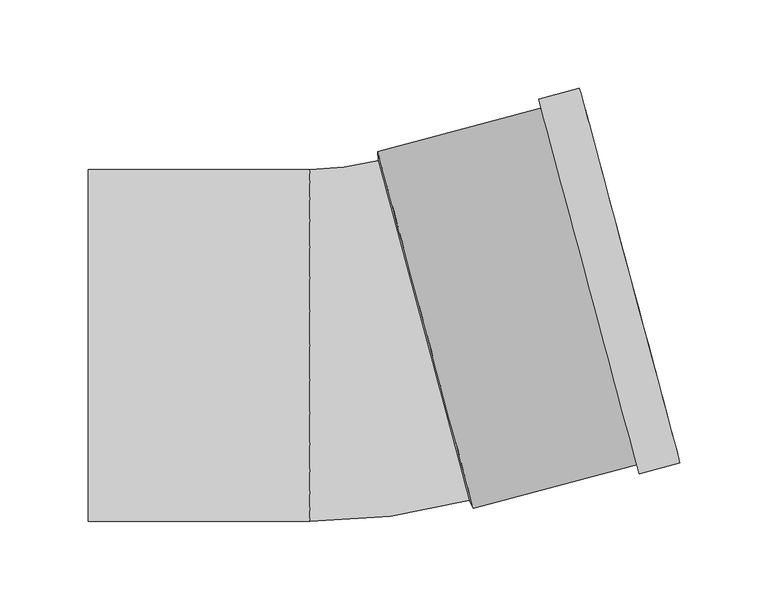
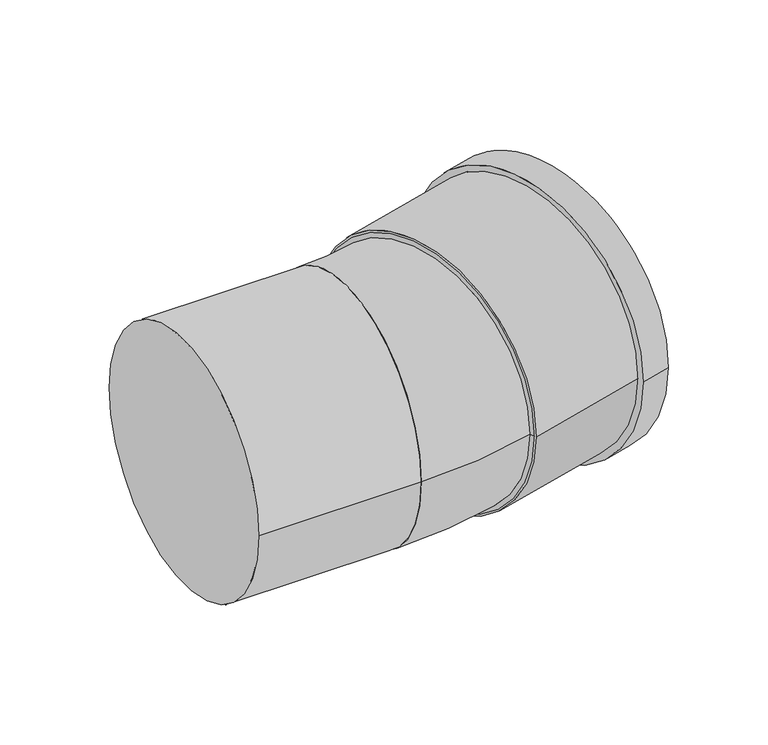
"""IFC4 building model written with IfcOpenShell, lengths in millimetres: pipe fitting geometry, Superdrain SKB Bend : Superdrain SKB Bend."""

from ifc_helpers import new_model, si_unit, point, frame, origin, origin_2d, place, context, project, spatial, polyline, circle_curve, ellipse_curve, trimmed, segment, composite_curve, outline, extrude, source, transform, mapped, element, save
from ifc_brep_helpers import plane_surface, revolved_surface, advanced_brep


def pipe_fitting_2e0013b4(model_context):
    return source(origin(), model_context, "Body", "SolidModel", [
        advanced_brep(
        [(57.7574568, -88.0515541, 0.0), (5.9936478, 105.1336111, 0.0), (-33.0, -100.0, 0.0), (-33.0, 100.0, 0.0)],
        [
            (0, 1, circle_curve(frame((31.8755523, 8.5410285, 0.0), z_axis=(0.965925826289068, 0.258819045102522, 0.0), x_axis=(-0.258819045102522, 0.965925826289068, 0.0)), 100.0)),
            (1, 0, circle_curve(frame((31.8755523, 8.5410285, 0.0), z_axis=(0.965925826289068, 0.258819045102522, 0.0), x_axis=(-0.258819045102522, 0.965925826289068, 0.0)), 100.0)),
            (2, 3, circle_curve(frame((-33.0, 0.0, 0.0), z_axis=(-1.0, 0.0, 0.0), x_axis=(0.0, 1.0, 0.0)), 100.0)),
            (3, 2, circle_curve(frame((-33.0, 0.0, 0.0), z_axis=(-1.0, 0.0, 0.0), x_axis=(0.0, 1.0, 0.0)), 100.0)),
            (3, 1, circle_curve(frame((-33.0, 250.6598857, 0.0), z_axis=(0.0, 0.0, 1.0), x_axis=(1.0, 0.0, 0.0)), 150.6598857)),
            (0, 2, circle_curve(frame((-33.0, 250.6598857, 0.0), z_axis=(0.0, 0.0, -1.0), x_axis=(1.0, 0.0, 0.0)), 350.6598857)),
        ],
        [
            plane_surface(frame((31.8755523, 8.5410285, 0.0), z_axis=(0.965925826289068, 0.25881904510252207, 0.0), x_axis=(0.0, 0.0, -1.0))),
            plane_surface(frame((-33.0, 0.0, 0.0), z_axis=(-1.0, 0.0, 0.0), x_axis=(0.0, 0.0, -1.0))),
            revolved_surface(trimmed(ellipse_curve(frame((217.6598857, 250.6598857, 0.0), z_axis=(0.0, -1.0, 0.0), x_axis=(-1.0, 0.0, 0.0)), 100.0, 100.0), [point((117.6598857, 250.6598857, 0.0))], [point((317.6598857, 250.6598857, 0.0))], True, "CARTESIAN"), (-33.0, 250.6598857, 0.0), (0.0, 0.0, 1.0)),
            revolved_surface(trimmed(ellipse_curve(frame((217.6598857, 250.6598857, 0.0), z_axis=(0.0, -1.0, 0.0), x_axis=(-1.0, 0.0, 0.0)), 100.0, 100.0), [point((317.6598857, 250.6598857, 0.0))], [point((117.6598857, 250.6598857, 0.0))], True, "CARTESIAN"), (-33.0, 250.6598857, 0.0), (0.0, 0.0, 1.0)),
        ],
        [
            (0, [[1, 2]]),
            (1, [[3, 4]]),
            (2, [[-4, 5, -1, 6]]),
            (3, [[-3, -6, -2, -5]]),
        ],
    ),
        extrude(outline(composite_curve([segment(trimmed(circle_curve(origin_2d(), 105.0), [point((0.0, 104.9999999))], [point((0.0, -105.0))], False, "CARTESIAN"), True, "CONTINUOUS"), segment(trimmed(circle_curve(origin_2d(), 105.0), [point((0.0, -105.0))], [point((0.0, 104.9999999))], False, "CARTESIAN"), True, "CONTINUOUS")], self_intersect=False), holes=[composite_curve([segment(trimmed(circle_curve(origin_2d(), 100.0), [point((0.0, 100.0))], [point((0.0, -100.0000001))], True, "CARTESIAN"), True, "CONTINUOUS"), segment(trimmed(circle_curve(origin_2d(), 100.0), [point((0.0, -100.0000001))], [point((0.0, 100.0))], True, "CARTESIAN"), True, "CONTINUOUS")], self_intersect=False)]), frame((32.8414781, 8.7998475, 0.0), z_axis=(0.9659258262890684, 0.2588190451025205, 0.0), x_axis=(0.0, 0.0, 1.0)), (0.0, 0.0, 1.0), 120.0),
        extrude(outline(composite_curve([segment(trimmed(circle_curve(origin_2d(), 110.25), [point((0.0, -110.2499999))], [point((0.0, 110.25))], False, "CARTESIAN"), True, "CONTINUOUS"), segment(trimmed(circle_curve(origin_2d(), 110.25), [point((0.0, 110.25))], [point((0.0, -110.2499999))], False, "CARTESIAN"), True, "CONTINUOUS")], self_intersect=False), holes=[composite_curve([segment(trimmed(circle_curve(origin_2d(), 100.0), [point((0.0, -100.0))], [point((0.0, 100.0000001))], True, "CARTESIAN"), True, "CONTINUOUS"), segment(trimmed(circle_curve(origin_2d(), 100.0), [point((0.0, 100.0000001))], [point((0.0, -100.0))], True, "CARTESIAN"), True, "CONTINUOUS")], self_intersect=False)]), frame((125.5703574, 33.6464759, 0.0), z_axis=(0.9659258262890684, 0.2588190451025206, 0.0), x_axis=(0.0, 0.0, 1.0)), (0.0, 0.0, 1.0), 24.0),
        advanced_brep(
        [(60.0174778, -92.6223642, 0.0), (5.6654784, 110.2220593, 0.0), (57.7574568, -88.0515541, 0.0), (5.9936478, 105.1336111, 0.0)],
        [
            (0, 1, circle_curve(frame((32.8414781, 8.7998475, 0.0), z_axis=(0.9659258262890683, 0.2588190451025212, 0.0), x_axis=(0.2588190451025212, -0.9659258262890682, 0.0)), 105.0)),
            (1, 0, circle_curve(frame((32.8414781, 8.7998475, 0.0), z_axis=(0.9659258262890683, 0.2588190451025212, 0.0), x_axis=(-0.25881904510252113, 0.9659258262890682, 0.0)), 105.0)),
            (2, 3, circle_curve(frame((31.8755523, 8.5410285, 0.0), z_axis=(-0.9659258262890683, -0.2588190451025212, 0.0), x_axis=(-0.25881904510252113, 0.9659258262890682, 0.0)), 100.0)),
            (3, 2, circle_curve(frame((31.8755523, 8.5410285, 0.0), z_axis=(-0.9659258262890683, -0.2588190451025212, 0.0), x_axis=(0.2588190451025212, -0.9659258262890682, 0.0)), 100.0)),
            (3, 1),
            (0, 2),
        ],
        [
            plane_surface(frame((32.8414781, 8.7998475, 0.0), z_axis=(0.9659258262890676, 0.25881904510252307, 0.0), x_axis=(0.0, 0.0, -1.0))),
            plane_surface(frame((31.8755523, 8.5410285, 0.0), z_axis=(-0.9659258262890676, -0.25881904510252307, 0.0), x_axis=(0.0, 0.0, -1.0))),
            revolved_surface(polyline([(5.993647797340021, 105.13361109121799, 0.0), (5.6654784, 110.2220593, 0.0)]), (12.5570357, 3.3646476, 0.0), (0.9659258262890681, 0.25881904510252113, 0.0)),
            revolved_surface(polyline([(57.75745687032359, -88.05155436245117, 0.0), (60.01747794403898, -92.62236449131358, 0.0)]), (12.5570357, 3.3646476, 0.0), (0.9659258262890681, 0.25881904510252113, 0.0)),
        ],
        [
            (0, [[1, 2]]),
            (1, [[3, 4]]),
            (2, [[-4, 5, -1, 6]]),
            (3, [[-3, -6, -2, -5]]),
        ],
    ),
        extrude(outline(composite_curve([segment(trimmed(circle_curve(origin_2d(), 100.0), [point((-100.0, 0.0))], [point((100.0, 0.0))], False, "CARTESIAN"), True, "CONTINUOUS"), segment(trimmed(circle_curve(origin_2d(), 100.0), [point((100.0, 0.0))], [point((-100.0, 0.0))], False, "CARTESIAN"), True, "CONTINUOUS")], self_intersect=False)), frame((-158.8, 0.0, 0.0), z_axis=(1.0, 0.0, 0.0), x_axis=(0.0, 1.0, 0.0)), (0.0, 0.0, 1.0), 125.8),
    ])


if __name__ == "__main__":
    model = new_model("IFC4")
    model_context = context("Model", 3, world=origin())
    ifc_project = project(units=[si_unit("LENGTHUNIT", "METRE", prefix="MILLI")], contexts=[model_context])
    site = spatial("IfcSite", under=ifc_project)
    building = spatial("IfcBuilding", under=site)
    placement = place(None, origin())
    pipe_fitting_shape = pipe_fitting_2e0013b4(model_context)
    element("IfcPipeFitting", 1, ObjectType="Superdrain SKB Bend : Superdrain SKB Bend", at=placement, inside=building, context=model_context, shape_type="MappedRepresentation", body=[
        mapped(pipe_fitting_shape, transform((0.0, 0.0, 0.0), x_axis=(1.0, 0.0, 0.0), y_axis=(0.0, 1.0, 0.0), z_axis=(0.0, 0.0, 1.0))),
    ])
    save(model, "model.ifc")
